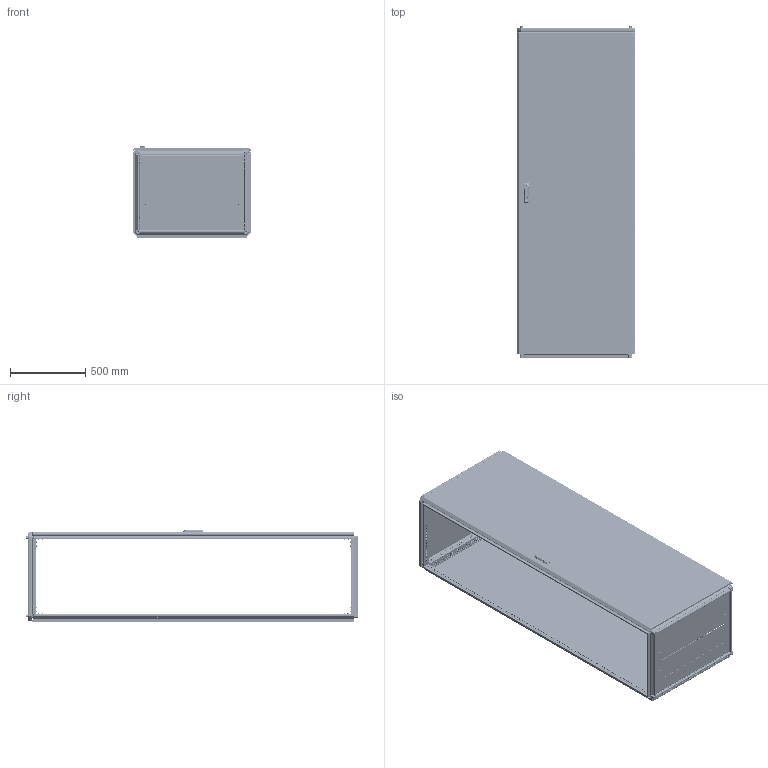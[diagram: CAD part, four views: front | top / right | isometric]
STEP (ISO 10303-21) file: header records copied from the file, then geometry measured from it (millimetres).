
FILE_DESCRIPTION (( 'STEP AP203' ), '1' );
FILE_NAME ('MA1.000.080622.10.00 AleSta2286 Øêàô AleSta 800õ600õ2200.STEP', '2024-08-23T08:50:00', ( '' ), ( '' ), 'SwSTEP 2.0', 'SolidWorks 2021', '' );
FILE_SCHEMA (( 'CONFIG_CONTROL_DESIGN' ));
Length unit declared in the file: millimetre
Products named in the file (50): MA1.000.080622.10.00 AleSta2286 Øêàô AleSta 800õ600õ2200; MA1.101.060620.00.02 Ïðîôèëü ïîïåðå÷íûé ñâàðíîé_01 L=498 (˜=600); Âèíò ñ âí. øåñòèãðàííèêîì M12 DIN912_•30; MA1.200.060620.31.01 Ïîëîòíî äâåðè ñïëîøíîé 2000õ600_2200å800; Ïåòëÿ íà äâåðü ï-îáðàçíàÿ; ﾇﾀﾊﾋﾅﾏﾊﾀ ﾃﾀﾅﾗﾍﾀﾟ ﾘﾅﾑﾒﾈﾃﾐﾀﾍﾍﾀﾟ ﾑ ﾓﾌﾅﾍﾜﾘﾅﾍﾍﾛﾌ ﾁﾎﾐﾒﾎﾌ M4 X 11 (0.5-2.5 ﾌﾌ) HEX U-S ﾖﾈﾍﾊ; Âèíò ñàìîíàðåçàþùèé ñ ïîòàéíîé ãîëîâêîé Ì5x14 DIN 7500 M TORX, êëàññ ïðî÷íîñòè 8.8, îöèíêîâàííàÿ ñòàëü_Œ5å12; MA1.101.060620.00.02 Ïðîôèëü ïîïåðå÷íûé ñâàðíîé_02 L=698 (˜=800) ; ﾘ琺矜 01.019 ﾃﾎﾑﾒ11371-78_12; Âèíò ñàìîíàðåçàþùèé ñ ïîòàéíîé ãîëîâêîé Ì5x14 DIN 7500 M TORX, êëàññ ïðî÷íîñòè 8.8, îöèíêîâàííàÿ ñòàëü_Œ5å14; MA1.200.060620.30.00 AleSta-D20M600 Äâåðü ñïëîøíàÿ äëÿ øêàôîâ ALESTA ÂõØ 2000õ600_2200å800; Áîëò øåñòèãðàííûé Ì5õ12 DIN 933, êëàññ ïðî÷íîñòè 8.8, îöèíêîâàííàÿ ñòàëü; Óïëîòíèòåëü ïàíåëè íèæíåé_800å600; Óïëîòíèòåëü ïàíåëè íèæíåé_ ‚=2200; Âèíò ðåçüáîâûäàâëèâàþùèé Ì6õ12 DIN 7500E_Œ6å10; MA1.200.060620.11.00 Ïàíåëü çàäíÿÿ, äëÿ øêàôîâ AleSta, 2000x600_2200å800; MA1.101.060620.20.02 Çàêðûòèå íèæíåé ïàíåëè 600õ600_800å600; MA1.102.060620.00.01 Ïðîôèëü âåðòèêàëüíûé ñâàðíîé_05 L=2098 (‚=2200); MA1.102.060620.00.00 AleSta-VG2000 Ñòîéêè âåðòèêàëüíûå, Â=2000ìì  (4øò)_ 800å600; MS463-2-3(1); MA1.200.060620.11.01 Ïîëîòíî çàäíåé ïàíåëè 2000õ600_2200å800; MA1.200.060620.31.05 Óãëîâîé óïîð äâåðíîé òÿãè; Øàéáà ñòîïîðíàÿ ñ íàðóæíûìè çóáöàìè SCHNORR, òèï VS öèíêîâûå õëîïüÿ Ì6 O6,4 ART 88121_Œ6; MA1.200.060620.31.03 Ðåéêà íà äâåðü ãîðèçîíòàëüíàÿ Ø = 600_˜=800; Ãàéêà ñàìîêîíòðÿùàÿñÿ ñ íåéëîíîâîé âñòàâêîé Ì6 DIN 985, êëàññ ïðî÷íîñòè 8, îöèíêîâàííàÿ ñòàëü_Œ6; Âèíò_ðåçüáîâûäàâëèâàþùèé_Ì5õ12_DIN 7500E_Œ5å12; Øïèëüêà Ì6õ12_˜¯¨«ìª  Œ6å16; Ïðîáêà ïëàñòèêîâàÿ óíèâåðñàëüíàÿ ïîä îòâåðñòèå 4,5 ìì, ñåðèÿ ST, öâåò áåñöâåòíûé – ST4,5; MA1.200.060620.31.00 Äâåðü ñïëîøíàÿ äëÿ øêàôîâ ALESTA ÂõØ 2000õ600_2200å800; Âèíò_ðåçüáîâûäàâëèâàþùèé_Ì5õ12_DIN 7500E_00; MA1.200.060620.31.02 Ðåéêà íà äâåðü âåðòèêàëüíàÿ Â = 2000_‚ = 2200; ﾘ琺矜 65ﾃ 019 ﾃﾎﾑﾒ 6402-70_12; MA1.101.060620.10.00 Êðûøà 600x600_800å600; 諘蜱齁罻 022 瀁錒瀔隮; äåðæàòåëü_êðóãëîé_òÿãèRG002-RG1010-2-i-RG1010-3-.stp; MA1.100.060620.00.01 Ñîåäèíèòåëü óãëîâîé_00; Øïèëüêà Ì6õ12_˜¯¨«ìª  Œ6å20; Øïèëüêà Ì6õ12_˜¯¨«ìª  Œ6å12; Íàâåñêà íà êîðïóñ ïîä êëåïêó; MA1.101.060620.00.00 AleSta-RB66 Êîìïëåêò êðûøà è îñíîâàíèå_ 800å600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
Assembly tree (337 placements, depth 4):
  MA1.000.080622.10.00 AleSta2286 Øêàô AleSta 800õ600õ2200
    MA1.101.060620.00.00 AleSta-RB66 Êîìïëåêò êðûøà è îñíîâàíèå_ 800å600
      MA1.101.060620.00.02 Ïðîôèëü ïîïåðå÷íûé ñâàðíîé_01 L=498 (˜=600)  x4
      MA1.101.060620.00.02 Ïðîôèëü ïîïåðå÷íûé ñâàðíîé_02 L=698 (˜=800)   x4
      MA1.101.060620.10.00 Êðûøà 600x600_800å600
        MA1.101.060620.10.01 Ïîëîòíî êðûøè 600õ600_800x600
        Øïèëüêà Ì6õ12_˜¯¨«ìª  Œ6å12  x4
        Óïëîòíèòåëü ïàíåëè íèæíåé_800å600
      MA1.101.060620.20.00 Íèæíÿÿ ïàíåëü 600õ600_800å600
        MA1.101.060620.20.01 Ïîëîòíî íèæíåé ïàíåëè 600õ600_800å600
        ﾇﾀﾊﾋﾅﾏﾊﾀ ﾃﾀﾅﾗﾍﾀﾟ ﾘﾅﾑﾒﾈﾃﾐﾀﾍﾍﾀﾟ ﾑ ﾓﾌﾅﾍﾜﾘﾅﾍﾍﾛﾌ ﾁﾎﾐﾒﾎﾌ M4 X 11 (0.5-2.5 ﾌﾌ) HEX U-S ﾖﾈﾍﾊ  x4
        MA1.101.060620.20.02 Çàêðûòèå íèæíåé ïàíåëè 600õ600_800å600  x2
        7380-2 ISO Âèíòû ñ ïîëóêðóãëîé ãîëîâêîé ñ ôëàíöåì ñ âíóòðåííèì øåñòèãðàííèêîì Ì4õ10  x4
      Âèíò_ðåçüáîâûäàâëèâàþùèé_Ì5õ12_DIN 7500E_Œ5å12  x8
      MA1.100.060620.00.01 Ñîåäèíèòåëü óãëîâîé_00  x8
      Âèíò ñ âí. øåñòèãðàííèêîì M12 DIN912_•30  x4
      Âèíò ðåçüáîâûäàâëèâàþùèé Ì6õ12 DIN 7500E_Œ6å10  x96
      ﾘ琺矜 01.019 ﾃﾎﾑﾒ11371-78_12  x4
      ﾘ琺矜 65ﾃ 019 ﾃﾎﾑﾒ 6402-70_12  x4
      Øàéáà ñòîïîðíàÿ ñ íàðóæíûìè çóáöàìè SCHNORR, òèï VS öèíêîâûå õëîïüÿ Ì6 O6,4 ART 88121_Œ6  x80
    MA1.102.060620.00.00 AleSta-VG2000 Ñòîéêè âåðòèêàëüíûå, Â=2000ìì  (4øò)_ 800å600
      MA1.102.060620.00.01 Ïðîôèëü âåðòèêàëüíûé ñâàðíîé_05 L=2098 (‚=2200)  x4
    MA1.200.060620.10.00 AleSta-PR206  Ïàíåëü çàäíÿÿ, äëÿ øêàôîâ ALESTA, 2000 x 600_2200å800
      MA1.200.060620.11.00 Ïàíåëü çàäíÿÿ, äëÿ øêàôîâ AleSta, 2000x600_2200å800
        MA1.200.060620.11.01 Ïîëîòíî çàäíåé ïàíåëè 2000õ600_2200å800
        Óïëîòíèòåëü ïàíåëè íèæíåé_ ‚=2200
        Øïèëüêà Ì6õ12_˜¯¨«ìª  Œ6å12  x4
      Âèíò ñàìîíàðåçàþùèé ñ ïîòàéíîé ãîëîâêîé Ì5x14 DIN 7500 M TORX, êëàññ ïðî÷íîñòè 8.8, îöèíêîâàííàÿ ñòàëü_Œ5å14  x8
    MA1.200.060620.30.00 AleSta-D20M600 Äâåðü ñïëîøíàÿ äëÿ øêàôîâ ALESTA ÂõØ 2000õ600_2200å800
      MA1.200.060620.31.00 Äâåðü ñïëîøíàÿ äëÿ øêàôîâ ALESTA ÂõØ 2000õ600_2200å800
        MA1.200.060620.31.01 Ïîëîòíî äâåðè ñïëîøíîé 2000õ600_2200å800
        Óïëîòíèòåëü ïàíåëè íèæíåé_ ‚=2200
        Øïèëüêà Ì6õ12_˜¯¨«ìª  Œ6å20  x16
        Øïèëüêà Ì6õ12_˜¯¨«ìª  Œ6å16  x4
        Ïåòëÿ íà äâåðü ï-îáðàçíàÿ  x4
      MA1.200.060620.31.03 Ðåéêà íà äâåðü ãîðèçîíòàëüíàÿ Ø = 600_˜=800  x2
      諘蜱齁罻 022 瀁錒瀔隮  x4
      MA1.200.060620.31.02 Ðåéêà íà äâåðü âåðòèêàëüíàÿ Â = 2000_‚ = 2200  x2
      äåðæàòåëü_êðóãëîé_òÿãèRG002-RG1010-2-i-RG1010-3-.stp  x2
      òÿãà_lg001-2.STEP_‚=2200  x2
      êðåïëåíèå_êðóãëîé_òÿãè_RG1020-1.stp  x2
      MS463-2-3(1)
      Ãàéêà ñàìîêîíòðÿùàÿñÿ ñ íåéëîíîâîé âñòàâêîé Ì6 DIN 985, êëàññ ïðî÷íîñòè 8, îöèíêîâàííàÿ ñòàëü_Œ6  x16
      Ãàéêà ñàìîêîíòðÿùàÿñÿ ñ íåéëîíîâîé âñòàâêîé Ì6 DIN 985, êëàññ ïðî÷íîñòè 8, îöèíêîâàííàÿ ñòàëü_Œ5  x2
      Áîëò øåñòèãðàííûé Ì5õ12 DIN 933, êëàññ ïðî÷íîñòè 8.8, îöèíêîâàííàÿ ñòàëü  x2
      MA1.200.060620.31.04 ðèãåëü çàìêà äâåðè
      MA1.200.060620.31.05 Óãëîâîé óïîð äâåðíîé òÿãè  x2
      Âèíò_ðåçüáîâûäàâëèâàþùèé_Ì5õ12_DIN 7500E_00  x2
      Íàâåñêà íà êîðïóñ ïîä êëåïêó  x4
      Îñü ïåòëè 4õ52_‚¨­â A.M4x0,5x40 ƒŽ‘’ 11644-75  x4
      Âèíò ñàìîíàðåçàþùèé ñ ïîòàéíîé ãîëîâêîé Ì5x14 DIN 7500 M TORX, êëàññ ïðî÷íîñòè 8.8, îöèíêîâàííàÿ ñòàëü_Œ5å12  x8
  Ïðîáêà ïëàñòèêîâàÿ óíèâåðñàëüíàÿ ïîä îòâåðñòèå 4,5 ìì, ñåðèÿ ST, öâåò áåñöâåòíûé – ST4,5
Bounding box: 792 x 2210.9 x 616.8 mm (x, y, z)
Volume: 11352607.6 mm3; surface area: 14963035.8 mm2
Topology: 364 solids, 378 shells, 24651 faces, 63990 edges, 40168 vertices
Faces by surface type: plane 14761, cylinder 7197, bspline 921, cone 845, torus 829, sphere 98
Entity records: 257800 total; most frequent: CARTESIAN_POINT 81385, ORIENTED_EDGE 33842, DIRECTION 33280, EDGE_CURVE 16938, AXIS2_PLACEMENT_3D 11376, VERTEX_POINT 10589, LINE 10528, VECTOR 10528
